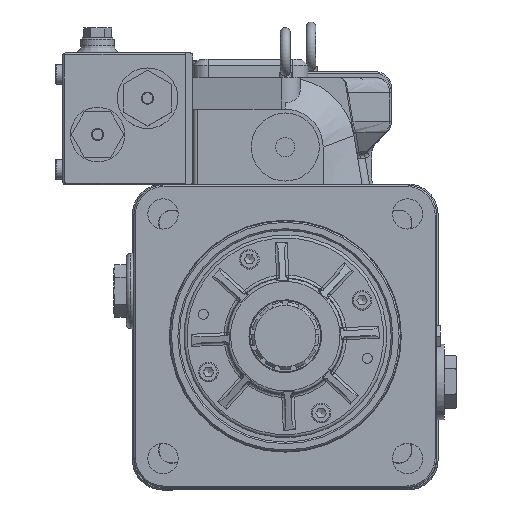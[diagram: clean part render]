
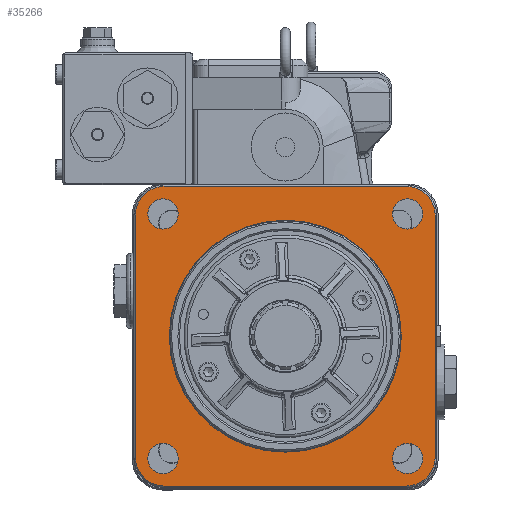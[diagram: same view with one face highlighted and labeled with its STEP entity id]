
A CAD part, top view. The second image highlights one B-rep face of the part: STEP entity #35266.
In plain terms, the highlighted planar face has unit normal (0, 0, 1).
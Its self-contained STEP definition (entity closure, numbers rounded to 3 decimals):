
#26129=CARTESIAN_POINT('',(90.8,-80.8,23.));
#26130=VERTEX_POINT('',#26129);
#26131=CARTESIAN_POINT('',(80.8,-80.8,23.));
#26132=DIRECTION('',(0.0,0.0,-1.0));
#26133=DIRECTION('',(-1.0,0.0,0.0));
#26134=AXIS2_PLACEMENT_3D('',#26131,#26132,#26133);
#26135=CIRCLE('',#26134,10.0);
#26136=EDGE_CURVE('',#26130,#26130,#26135,.T.);
#26157=CARTESIAN_POINT('',(-70.8,80.8,23.));
#26158=VERTEX_POINT('',#26157);
#26159=CARTESIAN_POINT('',(-80.8,80.8,23.));
#26160=DIRECTION('',(0.0,0.0,-1.0));
#26161=DIRECTION('',(-1.0,0.0,0.0));
#26162=AXIS2_PLACEMENT_3D('',#26159,#26160,#26161);
#26163=CIRCLE('',#26162,10.0);
#26164=EDGE_CURVE('',#26158,#26158,#26163,.T.);
#26185=CARTESIAN_POINT('',(90.8,80.8,23.));
#26186=VERTEX_POINT('',#26185);
#26187=CARTESIAN_POINT('',(80.8,80.8,23.));
#26188=DIRECTION('',(0.0,0.0,-1.0));
#26189=DIRECTION('',(-1.0,0.0,0.0));
#26190=AXIS2_PLACEMENT_3D('',#26187,#26188,#26189);
#26191=CIRCLE('',#26190,10.0);
#26192=EDGE_CURVE('',#26186,#26186,#26191,.T.);
#26213=CARTESIAN_POINT('',(-70.8,-80.8,23.));
#26214=VERTEX_POINT('',#26213);
#26215=CARTESIAN_POINT('',(-80.8,-80.8,23.));
#26216=DIRECTION('',(0.0,0.0,-1.0));
#26217=DIRECTION('',(-1.0,0.0,0.0));
#26218=AXIS2_PLACEMENT_3D('',#26215,#26216,#26217);
#26219=CIRCLE('',#26218,10.0);
#26220=EDGE_CURVE('',#26214,#26214,#26219,.T.);
#34935=CARTESIAN_POINT('',(-80.0,99.0,23.));
#34936=VERTEX_POINT('',#34935);
#34943=CARTESIAN_POINT('',(80.0,99.0,23.));
#34944=VERTEX_POINT('',#34943);
#34945=CARTESIAN_POINT('',(-80.0,99.0,23.));
#34946=DIRECTION('',(1.0,0.0,0.0));
#34947=VECTOR('',#34946,160.0);
#34948=LINE('',#34945,#34947);
#34949=EDGE_CURVE('',#34936,#34944,#34948,.T.);
#34968=CARTESIAN_POINT('',(-99.,80.0,23.));
#34969=VERTEX_POINT('',#34968);
#34976=CARTESIAN_POINT('',(-80.,80.,23.));
#34977=DIRECTION('',(0.0,0.0,-1.0));
#34978=DIRECTION('',(0.0,1.0,0.0));
#34979=AXIS2_PLACEMENT_3D('',#34976,#34977,#34978);
#34980=CIRCLE('',#34979,19.0);
#34981=EDGE_CURVE('',#34969,#34936,#34980,.T.);
#34999=CARTESIAN_POINT('',(99.,80.0,23.));
#35000=VERTEX_POINT('',#34999);
#35017=CARTESIAN_POINT('',(80.,80.,23.));
#35018=DIRECTION('',(0.0,0.0,-1.0));
#35019=DIRECTION('',(1.0,0.0,0.0));
#35020=AXIS2_PLACEMENT_3D('',#35017,#35018,#35019);
#35021=CIRCLE('',#35020,19.0);
#35022=EDGE_CURVE('',#34944,#35000,#35021,.T.);
#35034=CARTESIAN_POINT('',(-99.,-80.0,23.));
#35035=VERTEX_POINT('',#35034);
#35042=CARTESIAN_POINT('',(-99.,-80.0,23.));
#35043=DIRECTION('',(0.0,1.0,0.0));
#35044=VECTOR('',#35043,160.0);
#35045=LINE('',#35042,#35044);
#35046=EDGE_CURVE('',#35035,#34969,#35045,.T.);
#35063=CARTESIAN_POINT('',(99.,-80.0,23.));
#35064=VERTEX_POINT('',#35063);
#35080=CARTESIAN_POINT('',(99.,80.0,23.));
#35081=DIRECTION('',(0.0,-1.0,0.0));
#35082=VECTOR('',#35081,160.0);
#35083=LINE('',#35080,#35082);
#35084=EDGE_CURVE('',#35000,#35064,#35083,.T.);
#35096=CARTESIAN_POINT('',(-80.,-99.0,23.));
#35097=VERTEX_POINT('',#35096);
#35104=CARTESIAN_POINT('',(-80.,-80.,23.));
#35105=DIRECTION('',(0.0,0.0,-1.0));
#35106=DIRECTION('',(-1.0,0.0,0.0));
#35107=AXIS2_PLACEMENT_3D('',#35104,#35105,#35106);
#35108=CIRCLE('',#35107,19.);
#35109=EDGE_CURVE('',#35097,#35035,#35108,.T.);
#35127=CARTESIAN_POINT('',(80.,-99.,23.));
#35128=VERTEX_POINT('',#35127);
#35145=CARTESIAN_POINT('',(80.,-80.,23.));
#35146=DIRECTION('',(0.0,0.0,-1.0));
#35147=DIRECTION('',(0.0,-1.0,0.0));
#35148=AXIS2_PLACEMENT_3D('',#35145,#35146,#35147);
#35149=CIRCLE('',#35148,19.);
#35150=EDGE_CURVE('',#35064,#35128,#35149,.T.);
#35168=CARTESIAN_POINT('',(80.,-99.,23.));
#35169=DIRECTION('',(-1.0,0.0,0.0));
#35170=VECTOR('',#35169,160.);
#35171=LINE('',#35168,#35170);
#35172=EDGE_CURVE('',#35128,#35097,#35171,.T.);
#35228=CARTESIAN_POINT('',(0.,0.,23.));
#35229=DIRECTION('',(0.0,0.0,1.0));
#35230=DIRECTION('',(1.0,0.0,0.0));
#35231=AXIS2_PLACEMENT_3D('',#35228,#35229,#35230);
#35232=PLANE('',#35231);
#35233=ORIENTED_EDGE('',*,*,#34949,.F.);
#35234=ORIENTED_EDGE('',*,*,#34981,.F.);
#35235=ORIENTED_EDGE('',*,*,#35046,.F.);
#35236=ORIENTED_EDGE('',*,*,#35109,.F.);
#35237=ORIENTED_EDGE('',*,*,#35172,.F.);
#35238=ORIENTED_EDGE('',*,*,#35150,.F.);
#35239=ORIENTED_EDGE('',*,*,#35084,.F.);
#35240=ORIENTED_EDGE('',*,*,#35022,.F.);
#35241=EDGE_LOOP('',(#35233,#35234,#35235,#35236,#35237,#35238,#35239,#35240));
#35242=FACE_OUTER_BOUND('',#35241,.T.);
#35243=ORIENTED_EDGE('',*,*,#26136,.T.);
#35244=EDGE_LOOP('',(#35243));
#35245=FACE_BOUND('',#35244,.T.);
#35246=ORIENTED_EDGE('',*,*,#26164,.T.);
#35247=EDGE_LOOP('',(#35246));
#35248=FACE_BOUND('',#35247,.T.);
#35249=ORIENTED_EDGE('',*,*,#26192,.T.);
#35250=EDGE_LOOP('',(#35249));
#35251=FACE_BOUND('',#35250,.T.);
#35252=ORIENTED_EDGE('',*,*,#26220,.T.);
#35253=EDGE_LOOP('',(#35252));
#35254=FACE_BOUND('',#35253,.T.);
#35255=CARTESIAN_POINT('',(76.6,0.,23.));
#35256=VERTEX_POINT('',#35255);
#35257=CARTESIAN_POINT('',(0.0,0.0,23.));
#35258=DIRECTION('',(0.0,0.0,1.0));
#35259=DIRECTION('',(-1.0,0.0,0.0));
#35260=AXIS2_PLACEMENT_3D('',#35257,#35258,#35259);
#35261=CIRCLE('',#35260,76.6);
#35262=EDGE_CURVE('',#35256,#35256,#35261,.T.);
#35263=ORIENTED_EDGE('',*,*,#35262,.F.);
#35264=EDGE_LOOP('',(#35263));
#35265=FACE_BOUND('',#35264,.T.);
#35266=ADVANCED_FACE('',(#35242,#35245,#35248,#35251,#35254,#35265),#35232,.T.);
